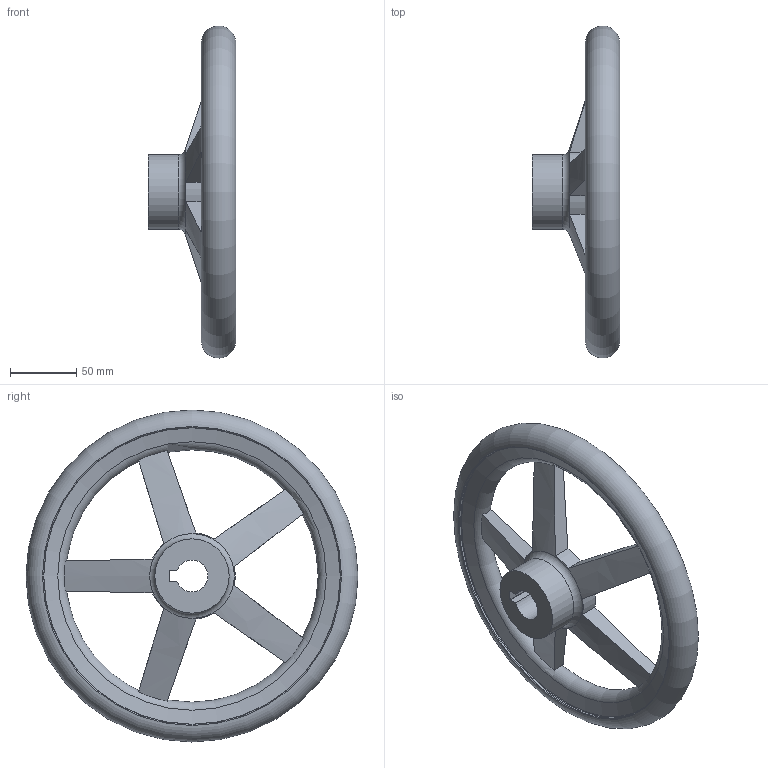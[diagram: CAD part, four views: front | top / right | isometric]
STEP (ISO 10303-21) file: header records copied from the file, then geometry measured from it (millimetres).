
FILE_DESCRIPTION( ( 'STEP AP203' ), '1' );
FILE_NAME( 'C:/Temp/Ganter_Step_05_03_2020/data/1_3/gn_950_1/gn_950_1_k/gn_950_1_k_a/Handwheel GN 950.1-GG-250-K24-A.stp', '2020-03-05T10:32:36', ( 'License CC BY-ND 4.0' ), ( 'CADENAS' ), ' ', 'PARTsolutions', ' ' );
FILE_SCHEMA( ( 'CONFIG_CONTROL_DESIGN' ) );
Length unit declared in the file: millimetre
Products named in the file (1): _Handwheel GN 950.1-GG-250-K24-A
Bounding box: 65.99 x 249.99 x 249.99 mm (x, y, z)
Volume: 558014 mm3; surface area: 99818.5 mm2
Topology: 1 solids, 1 shells, 44 faces, 129 edges, 81 vertices
Faces by surface type: plane 15, torus 13, cylinder 12, cone 4
Full cylindrical faces by diameter (mm): 56 x2, 224 x2
Entity records: 1714 total; most frequent: CARTESIAN_POINT 607, ORIENTED_EDGE 218, DIRECTION 206, EDGE_CURVE 109, AXIS2_PLACEMENT_3D 92, VERTEX_POINT 79, EDGE_LOOP 67, FACE_OUTER_BOUND 56
